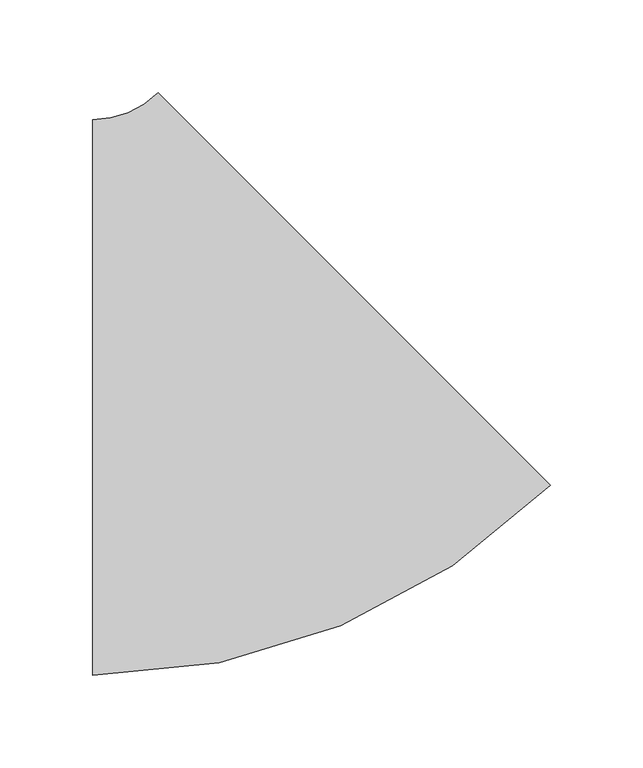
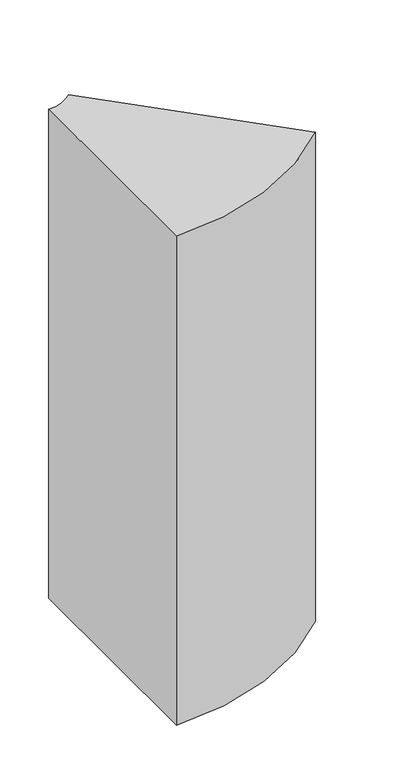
"""IFC4 building model written with IfcOpenShell, lengths in millimetres: duct fitting geometry, ADSK_ОтводВоздуховодов_Прямоугольный1 : Стандарт 2."""

import ifcopenshell
import ifcopenshell.guid

model = None  # the IFC model being written
_history = None  # IfcOwnerHistory: only IFC2X3 demands one
_inside = {}  # id of a spatial element -> (the spatial element, [elements in it])
_under = {}  # id of a project, library or spatial element -> (it, [spatial elements below it])
_declared = {}  # id of a project -> (the project, [libraries it declares])
_typed = {}  # id of a type object -> (the type object, [elements of that type])
_made_of = {}  # id of a material, layer set ... -> (it, [elements and type objects made of it])


def new_model(schema):
    """Start an empty IFC model of exactly this schema.

    Asked for "IFC4X3", IfcOpenShell would pick the latest addendum, in which some entities
    have other attributes; the version numbers below select the first issue.
    IFC2X3 requires an IfcOwnerHistory on every rooted entity: one is made here for all.
    """
    global model, _history
    if schema == "IFC4X3":
        model = ifcopenshell.file(schema_version=(4, 3, 0, 0))
    else:
        model = ifcopenshell.file(schema=schema)
    _inside.clear()
    _under.clear()
    _declared.clear()
    _typed.clear()
    _made_of.clear()
    _history = None
    if model.schema == "IFC2X3":
        org = make("IfcOrganization", Name="unknown")
        user = make(
            "IfcPersonAndOrganization",
            ThePerson=make("IfcPerson", FamilyName="unknown"),
            TheOrganization=org,
        )
        app = make(
            "IfcApplication",
            ApplicationDeveloper=org,
            Version="unknown",
            ApplicationFullName="unknown",
            ApplicationIdentifier="unknown",
        )
        _history = make(
            "IfcOwnerHistory",
            OwningUser=user,
            OwningApplication=app,
            ChangeAction="ADDED",
            CreationDate=0,
        )
    return model


def make(cls, **values):
    """One entity of the class cls with the attributes given. An attribute that is None is left unset."""
    return model.create_entity(
        cls, **{name: value for name, value in values.items() if value is not None}
    )


def rooted(cls, **values):
    """An entity with a GlobalId (a new one), such as an element, a storey or a relation."""
    return make(cls, GlobalId=ifcopenshell.guid.new(), OwnerHistory=_history, **values)


def si_unit(unit_type, name, prefix=None):
    """IfcSIUnit, for example si_unit("LENGTHUNIT", "METRE", prefix="MILLI")."""
    return make("IfcSIUnit", UnitType=unit_type, Prefix=prefix, Name=name)


def assignment(units):
    """IfcUnitAssignment: the units of a project."""
    return None if units is None else make("IfcUnitAssignment", Units=units)


def point(xyz):
    """IfcCartesianPoint."""
    return None if xyz is None else make("IfcCartesianPoint", Coordinates=xyz)


def direction(xyz):
    """IfcDirection."""
    return None if xyz is None else make("IfcDirection", DirectionRatios=xyz)


def frame(location, z_axis=None, x_axis=None):
    """IfcAxis2Placement3D, a coordinate frame: its origin and axes. An axis left out is left unset."""
    return make(
        "IfcAxis2Placement3D",
        Location=point(location),
        Axis=direction(z_axis),
        RefDirection=direction(x_axis),
    )


def frame_2d(location, x_axis=None):
    """IfcAxis2Placement2D, a coordinate frame in the plane: its origin and x axis."""
    return make(
        "IfcAxis2Placement2D", Location=point(location), RefDirection=direction(x_axis)
    )


def origin():
    """The frame at (0, 0, 0) with its axes left unset."""
    return frame((0.0, 0.0, 0.0))


def place(relative_to, where):
    """IfcLocalPlacement: puts the frame where relative to a parent placement (None: the world)."""
    return make(
        "IfcLocalPlacement", PlacementRelTo=relative_to, RelativePlacement=where
    )


def context(
    kind, dimensions, precision=None, world=None, true_north=None, identifier=None
):
    """IfcGeometricRepresentationContext, for example the 3D "Model" context."""
    return make(
        "IfcGeometricRepresentationContext",
        ContextIdentifier=identifier,
        ContextType=kind,
        CoordinateSpaceDimension=dimensions,
        Precision=precision,
        WorldCoordinateSystem=world,
        TrueNorth=true_north,
    )


def project(units=None, contexts=None):
    """IfcProject with its units and contexts."""
    return rooted(
        "IfcProject",
        Name="project",
        RepresentationContexts=contexts,
        UnitsInContext=assignment(units),
    )


def spatial(cls, under=None, at=None, **own):
    """A site, building, storey or space (cls), placed at a placement, below another one or the project."""
    s = rooted(cls, ObjectPlacement=at, **own)
    if under is not None:
        _under.setdefault(under.id(), (under, []))[1].append(s)
    return s


def polyline(points):
    """IfcPolyline through the points."""
    return make("IfcPolyline", Points=[point(p) for p in points])


def circle_curve(where, radius):
    """IfcCircle in the frame where."""
    return make("IfcCircle", Position=where, Radius=radius)


def trimmed(basis, trim1, trim2, sense, master):
    """IfcTrimmedCurve: the piece of a basis curve between two trims."""
    return make(
        "IfcTrimmedCurve",
        BasisCurve=basis,
        Trim1=trim1,
        Trim2=trim2,
        SenseAgreement=sense,
        MasterRepresentation=master,
    )


def segment(curve, same_sense, transition):
    """IfcCompositeCurveSegment."""
    return make(
        "IfcCompositeCurveSegment",
        Transition=transition,
        SameSense=same_sense,
        ParentCurve=curve,
    )


def composite_curve(segments, self_intersect=None):
    """IfcCompositeCurve: segments joined end to end."""
    return make("IfcCompositeCurve", Segments=segments, SelfIntersect=self_intersect)


def outline(outer, holes=None, kind="AREA"):
    """IfcArbitraryClosedProfileDef: a profile drawn as a closed curve; with holes, ...WithVoids."""
    if holes is None:
        return make("IfcArbitraryClosedProfileDef", ProfileType=kind, OuterCurve=outer)
    return make(
        "IfcArbitraryProfileDefWithVoids",
        ProfileType=kind,
        OuterCurve=outer,
        InnerCurves=holes,
    )


def extrude(swept, where, along, depth):
    """IfcExtrudedAreaSolid: the profile swept, set in the frame where, extruded along a direction by depth."""
    return make(
        "IfcExtrudedAreaSolid",
        SweptArea=swept,
        Position=where,
        ExtrudedDirection=direction(along),
        Depth=depth,
    )


def shape(context_of_items, identifier, shape_type, items):
    """IfcShapeRepresentation: the items that make up one representation, for example the "Body"."""
    return make(
        "IfcShapeRepresentation",
        ContextOfItems=context_of_items,
        RepresentationIdentifier=identifier,
        RepresentationType=shape_type,
        Items=items,
    )


def source(mapping_origin, context_of_items, identifier, shape_type, items):
    """IfcRepresentationMap: a shape defined once, which mapped items show again and again."""
    return make(
        "IfcRepresentationMap",
        MappingOrigin=mapping_origin,
        MappedRepresentation=shape(context_of_items, identifier, shape_type, items),
    )


def transform(
    local_origin,
    x_axis=None,
    y_axis=None,
    z_axis=None,
    scale=None,
    scale2=None,
    scale3=None,
    uniform=True,
):
    """IfcCartesianTransformationOperator3D, or its non-uniform kind. x_axis, y_axis, z_axis: its Axis1, 2, 3."""
    if uniform:
        return make(
            "IfcCartesianTransformationOperator3D",
            Axis1=direction(x_axis),
            Axis2=direction(y_axis),
            LocalOrigin=point(local_origin),
            Scale=scale,
            Axis3=direction(z_axis),
        )
    return make(
        "IfcCartesianTransformationOperator3DnonUniform",
        Axis1=direction(x_axis),
        Axis2=direction(y_axis),
        LocalOrigin=point(local_origin),
        Scale=scale,
        Axis3=direction(z_axis),
        Scale2=scale2,
        Scale3=scale3,
    )


def mapped(mapping_source, mapping_target):
    """IfcMappedItem: shows the shape of a source again, moved by a transform."""
    return make(
        "IfcMappedItem", MappingSource=mapping_source, MappingTarget=mapping_target
    )


def made_of(thing, what):
    """Note that an element or type object is made of a material, layer set ...; save() writes the relation."""
    if what is not None:
        _made_of.setdefault(what.id(), (what, []))[1].append(thing)
    return thing


def element(
    cls,
    number,
    at=None,
    inside=None,
    cuts=None,
    type_object=None,
    material=None,
    context=None,
    identifier="Body",
    shape_type=None,
    held_by="IfcProductDefinitionShape",
    body=None,
    shapes=None,
    **own,
):
    """One element of the class cls, such as IfcWall. Its Tag is "e" and its number.

    at: its placement. inside: the storey or other place that contains it. cuts: it is an
    opening in that element (IfcRelVoidsElement). A single representation is given by context,
    identifier, shape_type and body (its items); several are given by shapes. held_by: the class
    of the entity that holds the representations. save() writes the other relations.
    """
    e = rooted(cls, Tag="e%d" % number, ObjectPlacement=at, **own)
    if body is not None:
        shapes = [shape(context, identifier, shape_type, body)]
    if shapes is not None:
        e.Representation = make(held_by, Representations=shapes)
    if inside is not None:
        _inside.setdefault(inside.id(), (inside, []))[1].append(e)
    if cuts is not None:
        rooted(
            "IfcRelVoidsElement", RelatingBuildingElement=cuts, RelatedOpeningElement=e
        )
    if type_object is not None:
        _typed.setdefault(type_object.id(), (type_object, []))[1].append(e)
    return made_of(e, material)


def aggregate(whole, parts):
    """IfcRelAggregates: a whole, such as a stair, and the parts it consists of."""
    return rooted("IfcRelAggregates", RelatingObject=whole, RelatedObjects=parts)


def save(model, path):
    """Write the relations noted so far, then the file.

    IfcRelAggregates (storeys below a building ...), IfcRelContainedInSpatialStructure (elements
    in a storey), IfcRelDefinesByType, IfcRelAssociatesMaterial and IfcRelDeclares: one each for
    every whole, place, type object, material and project.
    """
    for whole, parts in _under.values():
        aggregate(whole, parts)
    for where, things in _inside.values():
        rooted(
            "IfcRelContainedInSpatialStructure",
            RelatedElements=things,
            RelatingStructure=where,
        )
    for kind, things in _typed.values():
        rooted("IfcRelDefinesByType", RelatedObjects=things, RelatingType=kind)
    for what, things in _made_of.values():
        rooted("IfcRelAssociatesMaterial", RelatedObjects=things, RelatingMaterial=what)
    for by, libraries in _declared.values():
        rooted("IfcRelDeclares", RelatingContext=by, RelatedDefinitions=libraries)
    model.write(path)


def duct_fitting_ec1ced6f(model_context):
    return source(origin(), model_context, "Body", "SweptSolid", [
        extrude(outline(composite_curve([segment(trimmed(circle_curve(frame_2d((-82.8427125, 200.0)), 350.0), [point((164.6446609, -47.4873734))], [point((-82.8427125, -150.0))], False, "CARTESIAN"), True, "CONTINUOUS"), segment(polyline([(-82.8427125, -150.0), (-82.8427125, 150.0)]), True, "CONTINUOUS"), segment(trimmed(circle_curve(frame_2d((-82.8427125, 200.0)), 50.0), [point((-82.8427125, 150.0))], [point((-47.4873734, 164.6446609))], True, "CARTESIAN"), True, "CONTINUOUS"), segment(polyline([(-47.4873734, 164.6446609), (164.6446609, -47.4873734)]), True, "CONTINUOUS")], self_intersect=False)), frame((0.0, 0.0, -350.0), z_axis=(0.0, 0.0, 1.0), x_axis=(1.0, 0.0, 0.0)), (0.0, 0.0, 1.0), 700.0),
    ])


if __name__ == "__main__":
    model = new_model("IFC4")
    model_context = context("Model", 3, world=origin())
    ifc_project = project(units=[si_unit("LENGTHUNIT", "METRE", prefix="MILLI")], contexts=[model_context])
    site = spatial("IfcSite", under=ifc_project)
    building = spatial("IfcBuilding", under=site)
    placement = place(None, origin())
    duct_fitting_shape = duct_fitting_ec1ced6f(model_context)
    element("IfcDuctFitting", 1, ObjectType="ADSK_ОтводВоздуховодов_Прямоугольный1 : Стандарт 2", at=placement, inside=building, context=model_context, shape_type="MappedRepresentation", body=[
        mapped(duct_fitting_shape, transform((0.0, 0.0, 0.0), x_axis=(1.0, 0.0, 0.0), y_axis=(0.0, 1.0, 0.0), z_axis=(0.0, 0.0, 1.0))),
    ])
    save(model, "model.ifc")
